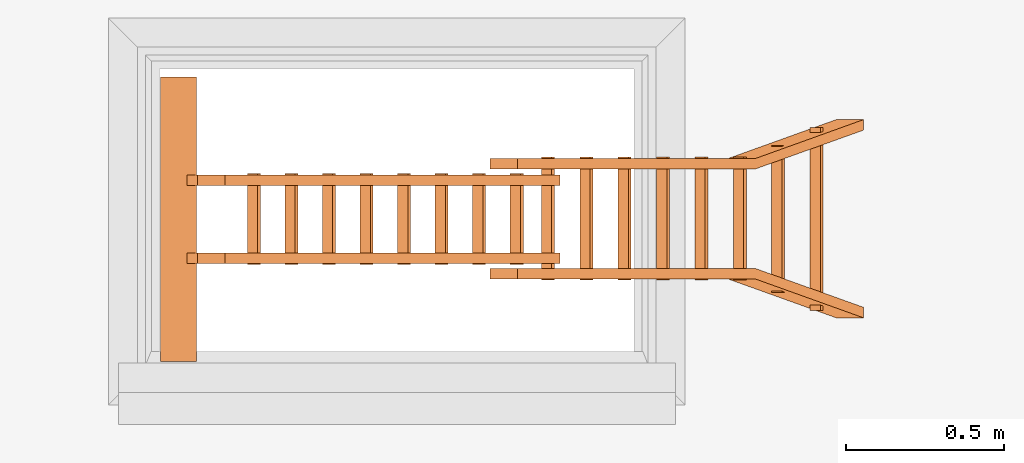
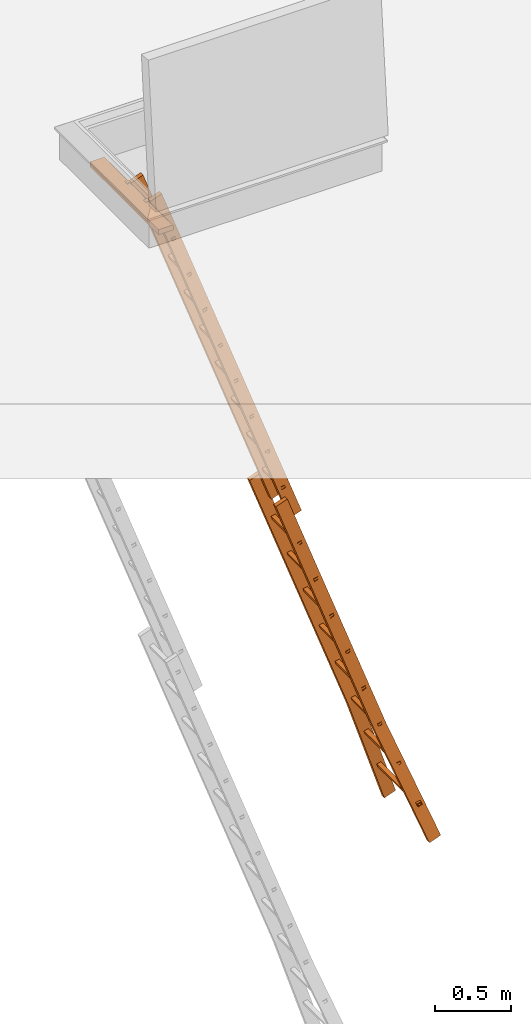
# One storey, part 3 of 28: 1 proxy, 2 openings.
"""IFC2X3 building model written with IfcOpenShell, lengths in millimetres."""

import ifcopenshell
import ifcopenshell.guid

model = None  # the IFC model being written
_history = None  # IfcOwnerHistory: only IFC2X3 demands one
_inside = {}  # id of a spatial element -> (the spatial element, [elements in it])
_under = {}  # id of a project, library or spatial element -> (it, [spatial elements below it])
_declared = {}  # id of a project -> (the project, [libraries it declares])
_typed = {}  # id of a type object -> (the type object, [elements of that type])
_made_of = {}  # id of a material, layer set ... -> (it, [elements and type objects made of it])


def new_model(schema):
    """Start an empty IFC model of exactly this schema.

    Asked for "IFC4X3", IfcOpenShell would pick the latest addendum, in which some entities
    have other attributes; the version numbers below select the first issue.
    IFC2X3 requires an IfcOwnerHistory on every rooted entity: one is made here for all.
    """
    global model, _history
    if schema == "IFC4X3":
        model = ifcopenshell.file(schema_version=(4, 3, 0, 0))
    else:
        model = ifcopenshell.file(schema=schema)
    _inside.clear()
    _under.clear()
    _declared.clear()
    _typed.clear()
    _made_of.clear()
    _history = None
    if model.schema == "IFC2X3":
        org = make("IfcOrganization", Name="unknown")
        user = make(
            "IfcPersonAndOrganization",
            ThePerson=make("IfcPerson", FamilyName="unknown"),
            TheOrganization=org,
        )
        app = make(
            "IfcApplication",
            ApplicationDeveloper=org,
            Version="unknown",
            ApplicationFullName="unknown",
            ApplicationIdentifier="unknown",
        )
        _history = make(
            "IfcOwnerHistory",
            OwningUser=user,
            OwningApplication=app,
            ChangeAction="ADDED",
            CreationDate=0,
        )
    return model


def make(cls, **values):
    """One entity of the class cls with the attributes given. An attribute that is None is left unset."""
    return model.create_entity(
        cls, **{name: value for name, value in values.items() if value is not None}
    )


def entity(cls, *values):
    """Any entity or typed value of the class cls, its attributes in the order of the schema. None: left unset."""
    e = model.create_entity(cls)
    for i, value in enumerate(values):
        if value is not None:
            e[i] = value
    return e


def rooted(cls, **values):
    """An entity with a GlobalId (a new one), such as an element, a storey or a relation."""
    return make(cls, GlobalId=ifcopenshell.guid.new(), OwnerHistory=_history, **values)


def si_unit(unit_type, name, prefix=None):
    """IfcSIUnit, for example si_unit("LENGTHUNIT", "METRE", prefix="MILLI")."""
    return make("IfcSIUnit", UnitType=unit_type, Prefix=prefix, Name=name)


def converted_unit(unit_type, name, factor, base, dimensions=None, offset=None):
    """IfcConversionBasedUnit, such as the inch: factor (a typed value) times the base unit."""
    return make(
        "IfcConversionBasedUnit"
        if offset is None
        else "IfcConversionBasedUnitWithOffset",
        ConversionOffset=offset,
        Dimensions=None
        if dimensions is None
        else entity("IfcDimensionalExponents", *dimensions),
        UnitType=unit_type,
        Name=name,
        ConversionFactor=make(
            "IfcMeasureWithUnit", ValueComponent=factor, UnitComponent=base
        ),
    )


def derived_unit(unit_type, elements):
    """IfcDerivedUnit: a product of units, each with its exponent."""
    return make(
        "IfcDerivedUnit",
        Elements=[
            make("IfcDerivedUnitElement", Unit=unit, Exponent=power)
            for unit, power in elements
        ],
        UnitType=unit_type,
    )


def assignment(units):
    """IfcUnitAssignment: the units of a project."""
    return None if units is None else make("IfcUnitAssignment", Units=units)


def point(xyz):
    """IfcCartesianPoint."""
    return None if xyz is None else make("IfcCartesianPoint", Coordinates=xyz)


def direction(xyz):
    """IfcDirection."""
    return None if xyz is None else make("IfcDirection", DirectionRatios=xyz)


def frame(location, z_axis=None, x_axis=None):
    """IfcAxis2Placement3D, a coordinate frame: its origin and axes. An axis left out is left unset."""
    return make(
        "IfcAxis2Placement3D",
        Location=point(location),
        Axis=direction(z_axis),
        RefDirection=direction(x_axis),
    )


def frame_2d(location, x_axis=None):
    """IfcAxis2Placement2D, a coordinate frame in the plane: its origin and x axis."""
    return make(
        "IfcAxis2Placement2D", Location=point(location), RefDirection=direction(x_axis)
    )


def origin():
    """The frame at (0, 0, 0) with its axes left unset."""
    return frame((0.0, 0.0, 0.0))


def origin_2d_with_axis():
    """The frame at (0, 0) in the plane with the x axis (1, 0) written out."""
    return frame_2d((0.0, 0.0), x_axis=(1.0, 0.0))


def place(relative_to, where):
    """IfcLocalPlacement: puts the frame where relative to a parent placement (None: the world)."""
    return make(
        "IfcLocalPlacement", PlacementRelTo=relative_to, RelativePlacement=where
    )


def context(
    kind, dimensions, precision=None, world=None, true_north=None, identifier=None
):
    """IfcGeometricRepresentationContext, for example the 3D "Model" context."""
    return make(
        "IfcGeometricRepresentationContext",
        ContextIdentifier=identifier,
        ContextType=kind,
        CoordinateSpaceDimension=dimensions,
        Precision=precision,
        WorldCoordinateSystem=world,
        TrueNorth=true_north,
    )


def subcontext(parent, identifier, kind, view, scale=None):
    """IfcGeometricRepresentationSubContext, for example "Body" below "Model"."""
    return make(
        "IfcGeometricRepresentationSubContext",
        ContextIdentifier=identifier,
        ContextType=kind,
        ParentContext=parent,
        TargetScale=scale,
        TargetView=view,
    )


def project(units=None, contexts=None):
    """IfcProject with its units and contexts."""
    return rooted(
        "IfcProject",
        Name="project",
        RepresentationContexts=contexts,
        UnitsInContext=assignment(units),
    )


def spatial(cls, under=None, at=None, **own):
    """A site, building, storey or space (cls), placed at a placement, below another one or the project."""
    s = rooted(cls, ObjectPlacement=at, **own)
    if under is not None:
        _under.setdefault(under.id(), (under, []))[1].append(s)
    return s


def polyline(points):
    """IfcPolyline through the points."""
    return make("IfcPolyline", Points=[point(p) for p in points])


def circle_curve(where, radius):
    """IfcCircle in the frame where."""
    return make("IfcCircle", Position=where, Radius=radius)


def parameter(value):
    """IfcParameterValue: where a trimmed curve begins or ends, as a parameter of its basis curve."""
    return model.create_entity("IfcParameterValue", value)


def trimmed(basis, trim1, trim2, sense, master):
    """IfcTrimmedCurve: the piece of a basis curve between two trims."""
    return make(
        "IfcTrimmedCurve",
        BasisCurve=basis,
        Trim1=trim1,
        Trim2=trim2,
        SenseAgreement=sense,
        MasterRepresentation=master,
    )


def segment(curve, same_sense, transition):
    """IfcCompositeCurveSegment."""
    return make(
        "IfcCompositeCurveSegment",
        Transition=transition,
        SameSense=same_sense,
        ParentCurve=curve,
    )


def composite_curve(segments, self_intersect=None):
    """IfcCompositeCurve: segments joined end to end."""
    return make("IfcCompositeCurve", Segments=segments, SelfIntersect=self_intersect)


def profile(cls, at=None, kind="AREA", **sizes):
    """A parametric profile (cls). Its sizes go by their IFC names, for example OverallWidth=200.0."""
    return make(cls, ProfileType=kind, Position=at, **sizes)


def rectangle(**sizes):
    """IfcRectangleProfileDef."""
    return profile("IfcRectangleProfileDef", **sizes)


def outline(outer, holes=None, kind="AREA"):
    """IfcArbitraryClosedProfileDef: a profile drawn as a closed curve; with holes, ...WithVoids."""
    if holes is None:
        return make("IfcArbitraryClosedProfileDef", ProfileType=kind, OuterCurve=outer)
    return make(
        "IfcArbitraryProfileDefWithVoids",
        ProfileType=kind,
        OuterCurve=outer,
        InnerCurves=holes,
    )


def extrude(swept, where, along, depth):
    """IfcExtrudedAreaSolid: the profile swept, set in the frame where, extruded along a direction by depth."""
    return make(
        "IfcExtrudedAreaSolid",
        SweptArea=swept,
        Position=where,
        ExtrudedDirection=direction(along),
        Depth=depth,
    )


def shape(context_of_items, identifier, shape_type, items):
    """IfcShapeRepresentation: the items that make up one representation, for example the "Body"."""
    return make(
        "IfcShapeRepresentation",
        ContextOfItems=context_of_items,
        RepresentationIdentifier=identifier,
        RepresentationType=shape_type,
        Items=items,
    )


def source(mapping_origin, context_of_items, identifier, shape_type, items):
    """IfcRepresentationMap: a shape defined once, which mapped items show again and again."""
    return make(
        "IfcRepresentationMap",
        MappingOrigin=mapping_origin,
        MappedRepresentation=shape(context_of_items, identifier, shape_type, items),
    )


def transform(
    local_origin,
    x_axis=None,
    y_axis=None,
    z_axis=None,
    scale=None,
    scale2=None,
    scale3=None,
    uniform=True,
):
    """IfcCartesianTransformationOperator3D, or its non-uniform kind. x_axis, y_axis, z_axis: its Axis1, 2, 3."""
    if uniform:
        return make(
            "IfcCartesianTransformationOperator3D",
            Axis1=direction(x_axis),
            Axis2=direction(y_axis),
            LocalOrigin=point(local_origin),
            Scale=scale,
            Axis3=direction(z_axis),
        )
    return make(
        "IfcCartesianTransformationOperator3DnonUniform",
        Axis1=direction(x_axis),
        Axis2=direction(y_axis),
        LocalOrigin=point(local_origin),
        Scale=scale,
        Axis3=direction(z_axis),
        Scale2=scale2,
        Scale3=scale3,
    )


def mapped(mapping_source, mapping_target):
    """IfcMappedItem: shows the shape of a source again, moved by a transform."""
    return make(
        "IfcMappedItem", MappingSource=mapping_source, MappingTarget=mapping_target
    )


def made_of(thing, what):
    """Note that an element or type object is made of a material, layer set ...; save() writes the relation."""
    if what is not None:
        _made_of.setdefault(what.id(), (what, []))[1].append(thing)
    return thing


def type_object(cls, material=None, **own):
    """A type object (cls), such as IfcWallType, which elements share."""
    return made_of(rooted(cls, **own), material)


def type_shapes(of_type, sources):
    """Give a type object the sources (RepresentationMaps) that its elements show as mapped items."""
    of_type.RepresentationMaps = sources


def element(
    cls,
    number,
    at=None,
    inside=None,
    cuts=None,
    type_object=None,
    material=None,
    context=None,
    identifier="Body",
    shape_type=None,
    held_by="IfcProductDefinitionShape",
    body=None,
    shapes=None,
    **own,
):
    """One element of the class cls, such as IfcWall. Its Tag is "e" and its number.

    at: its placement. inside: the storey or other place that contains it. cuts: it is an
    opening in that element (IfcRelVoidsElement). A single representation is given by context,
    identifier, shape_type and body (its items); several are given by shapes. held_by: the class
    of the entity that holds the representations. save() writes the other relations.
    """
    e = rooted(cls, Tag="e%d" % number, ObjectPlacement=at, **own)
    if body is not None:
        shapes = [shape(context, identifier, shape_type, body)]
    if shapes is not None:
        e.Representation = make(held_by, Representations=shapes)
    if inside is not None:
        _inside.setdefault(inside.id(), (inside, []))[1].append(e)
    if cuts is not None:
        rooted(
            "IfcRelVoidsElement", RelatingBuildingElement=cuts, RelatedOpeningElement=e
        )
    if type_object is not None:
        _typed.setdefault(type_object.id(), (type_object, []))[1].append(e)
    return made_of(e, material)


def aggregate(whole, parts):
    """IfcRelAggregates: a whole, such as a stair, and the parts it consists of."""
    return rooted("IfcRelAggregates", RelatingObject=whole, RelatedObjects=parts)


def save(model, path):
    """Write the relations noted so far, then the file.

    IfcRelAggregates (storeys below a building ...), IfcRelContainedInSpatialStructure (elements
    in a storey), IfcRelDefinesByType, IfcRelAssociatesMaterial and IfcRelDeclares: one each for
    every whole, place, type object, material and project.
    """
    for whole, parts in _under.values():
        aggregate(whole, parts)
    for where, things in _inside.values():
        rooted(
            "IfcRelContainedInSpatialStructure",
            RelatedElements=things,
            RelatingStructure=where,
        )
    for kind, things in _typed.values():
        rooted("IfcRelDefinesByType", RelatedObjects=things, RelatingType=kind)
    for what, things in _made_of.values():
        rooted("IfcRelAssociatesMaterial", RelatedObjects=things, RelatingMaterial=what)
    for by, libraries in _declared.values():
        rooted("IfcRelDeclares", RelatingContext=by, RelatedDefinitions=libraries)
    model.write(path)


model = new_model("IFC2X3")

# Units and contexts
model_context = context("Model", 3, precision=0.01, world=origin(), true_north=direction((6.12303176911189e-17, 1.0)))
body_context = subcontext(model_context, "Body", "Model", "MODEL_VIEW")
ifc_project = project(units=[si_unit("LENGTHUNIT", "METRE", prefix="MILLI"), si_unit("AREAUNIT", "SQUARE_METRE"), si_unit("VOLUMEUNIT", "CUBIC_METRE"), converted_unit("PLANEANGLEUNIT", "DEGREE", entity("IfcRatioMeasure", 0.0174532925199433), si_unit("PLANEANGLEUNIT", "RADIAN"), dimensions=[0, 0, 0, 0, 0, 0, 0]), si_unit("MASSUNIT", "GRAM", prefix="KILO"), derived_unit("MASSDENSITYUNIT", [(si_unit("MASSUNIT", "GRAM", prefix="KILO"), 1), (si_unit("LENGTHUNIT", "METRE"), -3)]), si_unit("TIMEUNIT", "SECOND"), si_unit("FREQUENCYUNIT", "HERTZ"), si_unit("THERMODYNAMICTEMPERATUREUNIT", "DEGREE_CELSIUS"), derived_unit("THERMALTRANSMITTANCEUNIT", [(si_unit("MASSUNIT", "GRAM", prefix="KILO"), 1), (si_unit("THERMODYNAMICTEMPERATUREUNIT", "KELVIN"), -1), (si_unit("TIMEUNIT", "SECOND"), -3)]), derived_unit("VOLUMETRICFLOWRATEUNIT", [(si_unit("LENGTHUNIT", "METRE"), 3), (si_unit("TIMEUNIT", "SECOND"), -1)]), si_unit("ELECTRICCURRENTUNIT", "AMPERE"), si_unit("ELECTRICVOLTAGEUNIT", "VOLT"), si_unit("POWERUNIT", "WATT"), si_unit("FORCEUNIT", "NEWTON", prefix="KILO"), si_unit("ILLUMINANCEUNIT", "LUX"), si_unit("LUMINOUSFLUXUNIT", "LUMEN"), si_unit("LUMINOUSINTENSITYUNIT", "CANDELA"), derived_unit("USERDEFINED", [(si_unit("MASSUNIT", "GRAM", prefix="KILO"), -1), (si_unit("LENGTHUNIT", "METRE"), -2), (si_unit("TIMEUNIT", "SECOND"), 3), (si_unit("LUMINOUSFLUXUNIT", "LUMEN"), 1)]), derived_unit("LINEARVELOCITYUNIT", [(si_unit("LENGTHUNIT", "METRE"), 1), (si_unit("TIMEUNIT", "SECOND"), -1)]), si_unit("PRESSUREUNIT", "PASCAL"), derived_unit("USERDEFINED", [(si_unit("LENGTHUNIT", "METRE"), -2), (si_unit("MASSUNIT", "GRAM", prefix="KILO"), 1), (si_unit("TIMEUNIT", "SECOND"), -2)])], contexts=[model_context])

# Site, building, storey
site_placement = place(None, origin())
site = spatial("IfcSite", under=ifc_project, at=site_placement, Name="Default", CompositionType="ELEMENT")
building_placement = place(site_placement, origin())
building = spatial("IfcBuilding", under=site, at=building_placement, CompositionType="ELEMENT")
storey_placement = place(building_placement, frame((0.0, 0.0, 4000.0)))
storey = spatial("IfcBuildingStorey", under=building, at=storey_placement, Name="Level 2", CompositionType="ELEMENT", Elevation=4000.0)

# Proxy, openings
building_element_proxy_type = type_object("IfcBuildingElementProxyType", Name="9_Topaccess_Trap_2delige1", PredefinedType="NOTDEFINED")
shared_shape = source(origin(), body_context, "Body", "SweptSolid", [
    extrude(outline(composite_curve([segment(polyline([(-20.0, -72.7589570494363), (20.0, -72.7589570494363)]), True, "CONTINUOUS"), segment(polyline([(20.0, -72.7589570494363), (20.0, 31.9980683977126)]), True, "CONTINUOUS"), segment(trimmed(circle_curve(frame_2d((10.2609571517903, 30.9957536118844), x_axis=(0.939692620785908, -0.342020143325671)), 9.79048469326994), [parameter(25.876031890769)], [parameter(105.876031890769)], True, "PARAMETER"), True, "CONTINUOUS"), segment(polyline([(10.9650368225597, 40.760888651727), (-10.9650368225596, 40.760888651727)]), True, "CONTINUOUS"), segment(trimmed(circle_curve(frame_2d((-10.2609571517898, 30.9957536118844), x_axis=(0.939692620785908, -0.342020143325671)), 9.79048469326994), [parameter(114.123968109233)], [parameter(194.123968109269)], True, "PARAMETER"), True, "CONTINUOUS"), segment(polyline([(-20.0, 31.9980683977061), (-20.0, -72.7589570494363)]), True, "CONTINUOUS")], self_intersect=False)), frame((-484.291584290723, -2.37763803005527, 9.64187826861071), z_axis=(1.0, 0.0, 0.0), x_axis=(0.0, 0.939692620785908, 0.34202014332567)), (0.0, 0.0, 1.0), 900.0),
    extrude(outline(composite_curve([segment(polyline([(-21.0941155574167, -85.4663572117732), (-18.0941155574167, -85.4663572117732)]), True, "CONTINUOUS"), segment(polyline([(-18.0941155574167, -85.4663572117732), (-18.0941155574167, 34.533772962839)]), True, "CONTINUOUS"), segment(trimmed(circle_curve(frame_2d((0.281515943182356, 34.5337729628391), x_axis=(0.0, 1.0)), 18.3756315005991), [parameter(284.219953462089)], [parameter(90.0000000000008)], True, "PARAMETER"), False, "CONTINUOUS"), segment(polyline([(18.0941155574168, 39.047654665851), (18.0941155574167, 11.7050015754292)]), True, "CONTINUOUS"), segment(polyline([(18.0941155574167, 11.7050015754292), (21.0941155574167, 11.7050015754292)]), True, "CONTINUOUS"), segment(polyline([(21.0941155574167, 11.7050015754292), (21.0941155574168, 39.4075106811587)]), True, "CONTINUOUS"), segment(trimmed(circle_curve(frame_2d((0.281515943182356, 34.5337729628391), x_axis=(0.0, 1.0)), 21.3756315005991), [parameter(283.179609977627)], [parameter(89.9999999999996)], True, "PARAMETER"), True, "CONTINUOUS"), segment(polyline([(-21.0941155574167, 34.5337729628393), (-21.0941155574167, -85.4663572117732)]), True, "CONTINUOUS")], self_intersect=False)), frame((72.0, -40.2373925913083, 36.9030783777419), z_axis=(1.0, 0.0, 0.0), x_axis=(0.0, 0.0, -1.0)), (0.0, 0.0, 1.0), 33.0),
    extrude(outline(composite_curve([segment(polyline([(-34.5337729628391, -21.0941155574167), (85.4663572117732, -21.0941155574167)]), True, "CONTINUOUS"), segment(polyline([(85.4663572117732, -21.0941155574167), (85.4663572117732, -18.0941155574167)]), True, "CONTINUOUS"), segment(polyline([(85.4663572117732, -18.0941155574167), (-34.5337729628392, -18.0941155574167)]), True, "CONTINUOUS"), segment(trimmed(circle_curve(frame_2d((-34.5337729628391, 0.281515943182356), x_axis=(-1.0, 0.0)), 18.3756315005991), [parameter(284.219953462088)], [parameter(90.0)], True, "PARAMETER"), False, "CONTINUOUS"), segment(polyline([(-39.047654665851, 18.0941155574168), (-11.7050015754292, 18.0941155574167)]), True, "CONTINUOUS"), segment(polyline([(-11.7050015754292, 18.0941155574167), (-11.7050015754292, 21.0941155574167)]), True, "CONTINUOUS"), segment(polyline([(-11.7050015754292, 21.0941155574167), (-39.407510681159, 21.0941155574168)]), True, "CONTINUOUS"), segment(trimmed(circle_curve(frame_2d((-34.5337729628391, 0.281515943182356), x_axis=(-1.0, 0.0)), 21.3756315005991), [parameter(283.179609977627)], [parameter(89.9999999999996)], True, "PARAMETER"), True, "CONTINUOUS")], self_intersect=False)), frame((-175.0, -40.2373925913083, 36.9030783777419), z_axis=(1.0, 0.0, 0.0), x_axis=(0.0, -1.0, 0.0)), (0.0, 0.0, 1.0), 33.0000000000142),
    extrude(rectangle(XDim=33.0000000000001, YDim=3099.99999999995, at=frame_2d((-3.30000000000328, 283.551511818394), x_axis=(1.0, 0.0))), frame((85.2, -1266.44848818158, 58.0), z_axis=(0.0, 0.0, 1.0), x_axis=(-1.0, 0.0, 0.0)), (0.0, 0.0, 1.0), 92.0),
    extrude(rectangle(XDim=3099.99999999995, YDim=33.0000000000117, at=frame_2d((-283.551511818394, 3.30000000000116), x_axis=(1.0, 0.0))), frame((-155.19999999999, -1266.44848818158, 58.0), z_axis=(0.0, 0.0, 1.0), x_axis=(0.0, 1.0, 0.0)), (0.0, 0.0, 1.0), 92.0),
    extrude(outline(polyline([(-11.5216143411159, -16.5000000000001), (13.8405381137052, -16.5000000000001), (13.8405381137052, 16.5), (-16.1594618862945, 16.5000000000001), (-11.5216143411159, -16.5000000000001)]), holes=[polyline([(8.84053811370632, -11.5000000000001), (-7.1751806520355, -11.5000000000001), (-10.4076198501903, 11.5000000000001), (8.84053811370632, 11.5), (8.84053811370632, -11.5000000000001)])]), frame((-227.077291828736, -3293.01909964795, 39.0843884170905), z_axis=(1.0, 0.0, 0.0), x_axis=(0.0, -1.0, 0.0)), (0.0, 0.0, 1.0), 389.077291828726),
    extrude(outline(polyline([(-11.5216143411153, -16.5000000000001), (13.8405381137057, -16.5000000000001), (13.8405381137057, 16.5), (-16.159461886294, 16.5000000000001), (-11.5216143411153, -16.5000000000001)]), holes=[polyline([(8.84053811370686, -11.5000000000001), (-7.17518065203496, -11.5000000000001), (-10.4076198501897, 11.5000000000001), (8.84053811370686, 11.5), (8.84053811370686, -11.5000000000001)])]), frame((-227.077291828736, -3648.01909964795, 39.0843884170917), z_axis=(1.0, 0.0, 0.0), x_axis=(0.0, -1.0, 0.0)), (0.0, 0.0, 1.0), 389.077291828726),
    extrude(outline(polyline([(-11.5216143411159, -16.5000000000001), (13.8405381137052, -16.5000000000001), (13.8405381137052, 16.5), (-16.1594618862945, 16.5000000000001), (-11.5216143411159, -16.5000000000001)]), holes=[polyline([(8.84053811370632, -11.5000000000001), (-7.1751806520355, -11.5000000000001), (-10.4076198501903, 11.5000000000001), (8.84053811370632, 11.5), (8.84053811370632, -11.5000000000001)])]), frame((-227.077291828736, -4003.01909964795, 39.0843884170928), z_axis=(1.0, 0.0, 0.0), x_axis=(0.0, -1.0, 0.0)), (0.0, 0.0, 1.0), 389.077291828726),
    extrude(outline(polyline([(-11.5216143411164, -16.5000000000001), (13.8405381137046, -16.5000000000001), (13.8405381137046, 16.5), (-16.159461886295, 16.5000000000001), (-11.5216143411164, -16.5000000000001)]), holes=[polyline([(8.84053811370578, -11.5000000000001), (-7.17518065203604, -11.5000000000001), (-10.4076198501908, 11.5000000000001), (8.84053811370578, 11.5), (8.84053811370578, -11.5000000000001)])]), frame((-227.077291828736, -4358.01909964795, 39.0843884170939), z_axis=(1.0, 0.0, 0.0), x_axis=(0.0, -1.0, 0.0)), (0.0, 0.0, 1.0), 389.077291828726),
    extrude(outline(polyline([(-11.5216143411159, -16.5000000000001), (13.8405381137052, -16.5000000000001), (13.8405381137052, 16.5), (-16.1594618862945, 16.5000000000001), (-11.5216143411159, -16.5000000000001)]), holes=[polyline([(8.84053811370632, -11.5000000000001), (-7.1751806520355, -11.5000000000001), (-10.4076198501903, 11.5000000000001), (8.84053811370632, 11.5), (8.84053811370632, -11.5000000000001)])]), frame((-227.077291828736, -4713.01909964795, 39.0843884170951), z_axis=(1.0, 0.0, 0.0), x_axis=(0.0, -1.0, 0.0)), (0.0, 0.0, 1.0), 389.077291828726),
    extrude(outline(polyline([(-11.5216143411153, -16.5000000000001), (13.8405381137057, -16.5000000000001), (13.8405381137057, 16.5), (-16.159461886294, 16.5000000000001), (-11.5216143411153, -16.5000000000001)]), holes=[polyline([(8.84053811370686, -11.5000000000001), (-7.17518065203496, -11.5000000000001), (-10.4076198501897, 11.5000000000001), (8.84053811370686, 11.5), (8.84053811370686, -11.5000000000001)])]), frame((-227.077291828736, -5068.01909964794, 39.0843884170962), z_axis=(1.0, 0.0, 0.0), x_axis=(0.0, -1.0, 0.0)), (0.0, 0.0, 1.0), 389.077291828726),
    extrude(outline(polyline([(-11.5216143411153, -16.5000000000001), (13.8405381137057, -16.5000000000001), (13.8405381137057, 16.5), (-16.159461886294, 16.5000000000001), (-11.5216143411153, -16.5000000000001)]), holes=[polyline([(8.84053811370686, -11.5000000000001), (-7.17518065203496, -11.5000000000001), (-10.4076198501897, 11.5000000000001), (8.84053811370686, 11.5), (8.84053811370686, -11.5000000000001)])]), frame((-266.000121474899, -5423.01909964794, 39.0843884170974), z_axis=(1.0, 0.0, 0.0), x_axis=(0.0, -1.0, 0.0)), (0.0, 0.0, 1.0), 465.000121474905),
    extrude(outline(polyline([(-11.5216143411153, -16.5000000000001), (13.8405381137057, -16.5000000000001), (13.8405381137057, 16.5), (-16.159461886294, 16.5000000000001), (-11.5216143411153, -16.5000000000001)]), holes=[polyline([(8.84053811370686, -11.5000000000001), (-7.17518065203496, -11.5000000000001), (-10.4076198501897, 11.5000000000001), (8.84053811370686, 11.5), (8.84053811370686, -11.5000000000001)])]), frame((-323.951711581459, -5778.01909964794, 39.0843884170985), z_axis=(1.0, 0.0, 0.0), x_axis=(0.0, -1.0, 0.0)), (0.0, 0.0, 1.0), 580.345535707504),
    extrude(outline(polyline([(388.026880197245, -105.667736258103), (1398.54073073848, -105.667736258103), (1402.59262124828, -72.6677362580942), (392.048568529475, -72.9137132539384), (-1788.59355619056, 194.835472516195), (-1792.61524452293, 162.081449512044), (388.026880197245, -105.667736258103)])), frame((181.59152386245, -4696.74475844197, -12.0), z_axis=(0.0, 0.0, 1.0), x_axis=(0.121869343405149, -0.992546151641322, 0.0)), (0.0, 0.0, 1.0), 92.0),
    extrude(outline(polyline([(390.379133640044, 72.7087324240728), (1402.92650822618, 72.7087324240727), (1398.87461771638, 105.708732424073), (388.360767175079, 105.708732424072), (-1792.28135754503, -162.040453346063), (-1788.25966921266, -194.794476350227), (390.379133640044, 72.7087324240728)])), frame((-247.591523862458, -4696.40836403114, -12.0), z_axis=(0.0, 0.0, 1.0), x_axis=(-0.121869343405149, -0.992546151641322, 0.0)), (0.0, 0.0, 1.0), 92.0),
    extrude(outline(polyline([(-11.5216143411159, -16.5), (13.8405381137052, -16.5), (13.8405381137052, 16.5), (-16.1594618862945, 16.5000000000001), (-11.5216143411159, -16.5)]), holes=[polyline([(8.84053811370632, -11.5), (-7.17518065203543, -11.5), (-10.4076198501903, 11.5), (8.84053811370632, 11.5), (8.84053811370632, -11.5)])]), frame((-178.583168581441, -401.863211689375, 101.084388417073), z_axis=(1.0, 0.0, 0.0), x_axis=(0.0, -1.0, 0.0)), (0.0, 0.0, 1.0), 288.583168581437),
    extrude(outline(polyline([(-11.5216143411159, -16.5), (13.8405381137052, -16.5), (13.8405381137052, 16.5), (-16.1594618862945, 16.5000000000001), (-11.5216143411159, -16.5)]), holes=[polyline([(8.84053811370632, -11.5), (-7.1751806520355, -11.5), (-10.4076198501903, 11.5000000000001), (8.84053811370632, 11.5), (8.84053811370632, -11.5)])]), frame((-178.583168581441, -749.363211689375, 101.084388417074), z_axis=(1.0, 0.0, 0.0), x_axis=(0.0, -1.0, 0.0)), (0.0, 0.0, 1.0), 288.583168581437),
    extrude(outline(polyline([(-11.5216143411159, -16.5), (13.8405381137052, -16.5), (13.8405381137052, 16.5), (-16.1594618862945, 16.5000000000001), (-11.5216143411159, -16.5)]), holes=[polyline([(8.84053811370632, -11.5), (-7.1751806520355, -11.5), (-10.4076198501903, 11.5), (8.84053811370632, 11.5), (8.84053811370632, -11.5)])]), frame((-178.583168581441, -1096.86321168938, 101.084388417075), z_axis=(1.0, 0.0, 0.0), x_axis=(0.0, -1.0, 0.0)), (0.0, 0.0, 1.0), 288.583168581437),
    extrude(outline(polyline([(-11.5216143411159, -16.5), (13.8405381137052, -16.5), (13.8405381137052, 16.5), (-16.1594618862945, 16.5000000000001), (-11.5216143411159, -16.5)]), holes=[polyline([(8.84053811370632, -11.5), (-7.1751806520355, -11.5), (-10.4076198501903, 11.5000000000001), (8.84053811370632, 11.5), (8.84053811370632, -11.5)])]), frame((-178.583168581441, -1444.36321168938, 101.084388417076), z_axis=(1.0, 0.0, 0.0), x_axis=(0.0, -1.0, 0.0)), (0.0, 0.0, 1.0), 288.583168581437),
    extrude(outline(polyline([(-11.5216143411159, -16.5), (13.8405381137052, -16.5), (13.8405381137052, 16.5), (-16.1594618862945, 16.5000000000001), (-11.5216143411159, -16.5)]), holes=[polyline([(8.84053811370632, -11.5), (-7.1751806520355, -11.5), (-10.4076198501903, 11.5000000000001), (8.84053811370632, 11.5), (8.84053811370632, -11.5)])]), frame((-178.583168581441, -1791.86321168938, 101.084388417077), z_axis=(1.0, 0.0, 0.0), x_axis=(0.0, -1.0, 0.0)), (0.0, 0.0, 1.0), 288.583168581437),
    extrude(outline(polyline([(-11.5216143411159, -16.5), (13.8405381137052, -16.5), (13.8405381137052, 16.5), (-16.1594618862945, 16.5000000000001), (-11.5216143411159, -16.5)]), holes=[polyline([(8.84053811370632, -11.5), (-7.1751806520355, -11.5), (-10.4076198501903, 11.5000000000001), (8.84053811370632, 11.5), (8.84053811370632, -11.5)])]), frame((-178.583168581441, -2139.36321168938, 101.084388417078), z_axis=(1.0, 0.0, 0.0), x_axis=(0.0, -1.0, 0.0)), (0.0, 0.0, 1.0), 288.583168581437),
    extrude(outline(polyline([(-11.5216143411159, -16.5), (13.8405381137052, -16.5), (13.8405381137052, 16.5), (-16.1594618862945, 16.5000000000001), (-11.5216143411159, -16.5)]), holes=[polyline([(8.84053811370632, -11.5), (-7.1751806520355, -11.5), (-10.4076198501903, 11.5), (8.84053811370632, 11.5), (8.84053811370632, -11.5)])]), frame((-178.583168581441, -2486.86321168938, 101.084388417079), z_axis=(1.0, 0.0, 0.0), x_axis=(0.0, -1.0, 0.0)), (0.0, 0.0, 1.0), 288.583168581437),
    extrude(outline(polyline([(-11.5216143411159, -16.5), (13.8405381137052, -16.5), (13.8405381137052, 16.5), (-16.1594618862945, 16.5000000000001), (-11.5216143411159, -16.5)]), holes=[polyline([(8.84053811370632, -11.5), (-7.1751806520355, -11.5), (-10.4076198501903, 11.5000000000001), (8.84053811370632, 11.5), (8.84053811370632, -11.5)])]), frame((-178.583168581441, -2834.36321168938, 101.08438841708), z_axis=(1.0, 0.0, 0.0), x_axis=(0.0, -1.0, 0.0)), (0.0, 0.0, 1.0), 288.583168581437),
])
type_shapes(building_element_proxy_type, [shared_shape])
proxy_placement = place(storey_placement, frame((-6344.04059328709, 5665.63743673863, 411.34251098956), z_axis=(0.939692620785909, 0.0, 0.342020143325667), x_axis=(0.0, 1.0, 0.0)))
proxy = element("IfcBuildingElementProxy", 1, at=proxy_placement, inside=storey, type_object=building_element_proxy_type, Name="9_Topaccess_Trap_2delige1:9_Topaccess_Trap_2delige1", ObjectType="9_Topaccess_Trap_2delige1", context=body_context, shape_type="MappedRepresentation", body=[
    mapped(shared_shape, transform((0.0, 0.0, 0.0), scale=1.0)),
])
opening_1_placement = place(storey_placement, frame((-6344.04059328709, 5665.63743673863, 4411.34251098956), z_axis=(0.321393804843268, 0.939692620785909, 0.11697777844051), x_axis=(-0.342020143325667, 0.0, 0.939692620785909)))
element("IfcOpeningElement", 2, at=opening_1_placement, cuts=proxy, Name="9_Topaccess_Trap_2delige1:9_Topaccess_Trap_2delige1:1", ObjectType="Opening", context=body_context, shape_type="SweptSolid", body=[
    extrude(rectangle(XDim=42.5298592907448, YDim=59.0000000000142, at=frame_2d((0.0, 3.37507799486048e-14), x_axis=(1.0, 0.0))), frame((-20.7510961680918, -3703.01313199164, -1516.45873407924), z_axis=(0.939692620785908, 0.321393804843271, 0.116977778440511), x_axis=(0.34202014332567, -0.883022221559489, -0.321393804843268)), (0.0, 0.0, 1.0), 40.0),
])
opening_2_placement = place(storey_placement, frame((-6344.04059328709, 5665.63743673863, 4411.34251098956), z_axis=(0.321393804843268, 0.939692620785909, 0.11697777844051), x_axis=(-0.342020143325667, 0.0, 0.939692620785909)))
element("IfcOpeningElement", 3, at=opening_2_placement, cuts=proxy, Name="9_Topaccess_Trap_2delige1:9_Topaccess_Trap_2delige1:2", ObjectType="Opening", context=body_context, shape_type="SweptSolid", body=[
    extrude(rectangle(XDim=42.5298592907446, YDim=59.0000000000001, at=origin_2d_with_axis()), frame((-20.7510961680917, -3787.49210739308, -1284.35465674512), z_axis=(0.939692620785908, 0.321393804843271, 0.116977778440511), x_axis=(0.34202014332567, -0.883022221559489, -0.321393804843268)), (0.0, 0.0, 1.0), 40.0),
])

save(model, "model.ifc")
